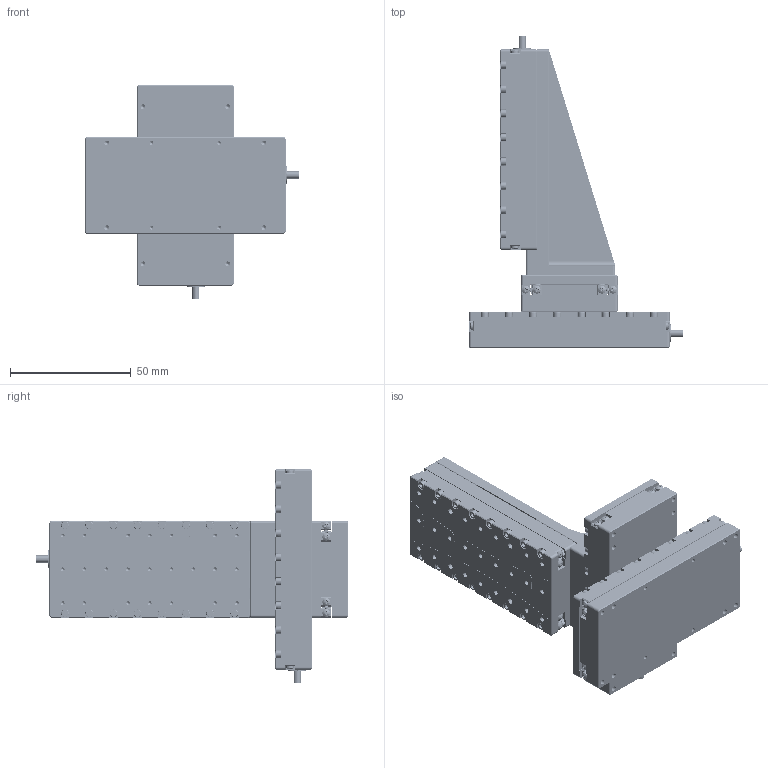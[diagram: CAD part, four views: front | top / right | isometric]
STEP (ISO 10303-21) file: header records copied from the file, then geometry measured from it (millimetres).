
FILE_DESCRIPTION (( 'STEP AP214' ), '1' );
FILE_NAME ('N56.XYZ50E-B1闭环三维直线压电马达3D图（25.08.01）.STEP', '2026-05-26T05:34:09', ( '微软用户' ), ( '微软中国' ), 'SwSTEP 2.0', 'SolidWorks 2016', '' );
FILE_SCHEMA (( 'AUTOMOTIVE_DESIGN' ));
Length unit declared in the file: millimetre
Products named in the file (1): N56.XYZ50E-B1闭环三维直线压电马达3D图（25.08.01）
Bounding box: 88.5 x 129 x 88.5 mm (x, y, z)
Volume: 144742.3 mm3; surface area: 104688.4 mm2
Topology: 277 solids, 289 shells, 6570 faces, 16313 edges, 10430 vertices
Faces by surface type: plane 3147, cylinder 2547, cone 636, bspline 240
Entity records: 272309 total; most frequent: CARTESIAN_POINT 39337, DIRECTION 33967, ORIENTED_EDGE 31670, EDGE_CURVE 15835, AXIS2_PLACEMENT_3D 12666, VERTEX_POINT 10430, LINE 8635, VECTOR 8635
